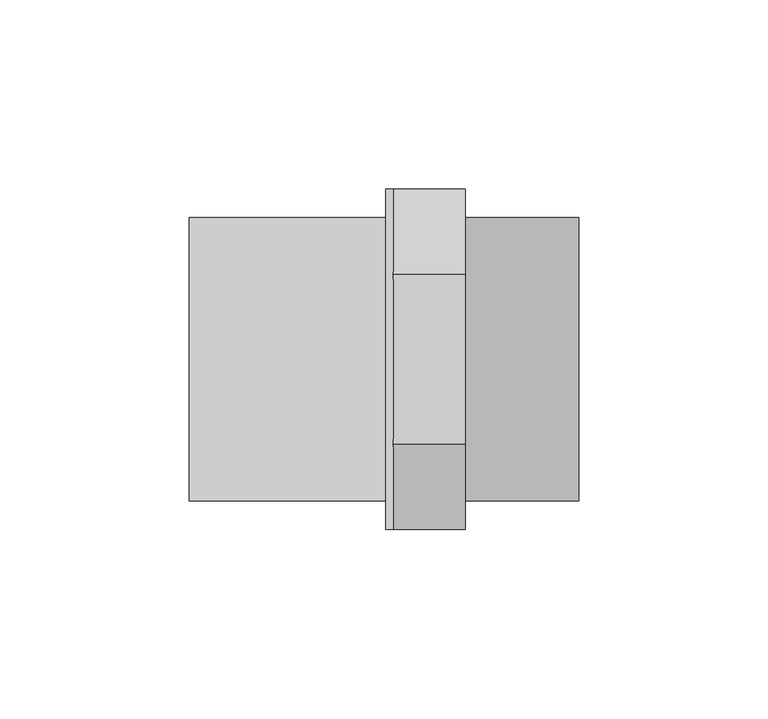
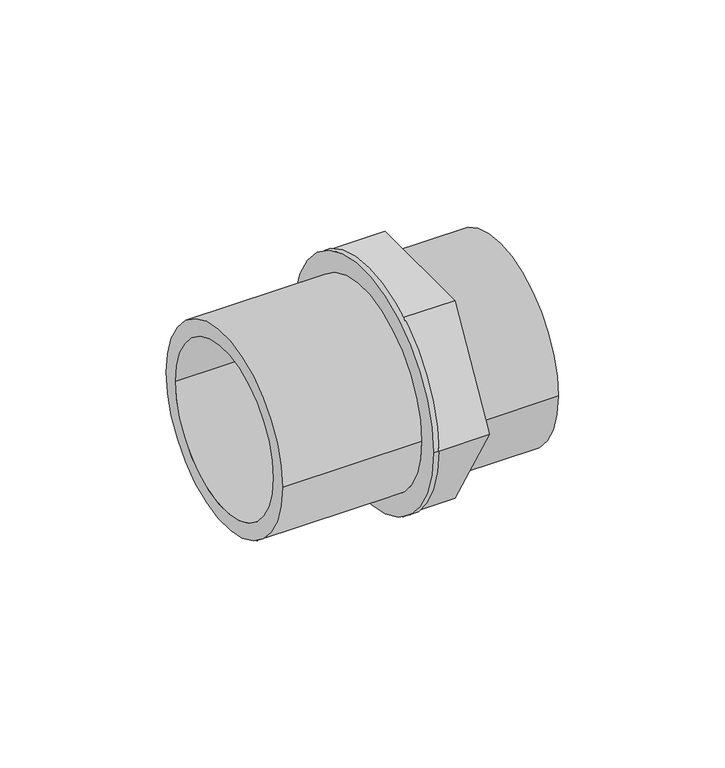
"""IFC4 building model written with IfcOpenShell, lengths in millimetres: pipe fitting geometry, 01011312 : Traversée de paroi en PVC."""

from ifc_helpers import new_model, si_unit, frame, origin, place, context, project, spatial, polyline, circle_curve, source, transform, mapped, element, save
from ifc_brep_helpers import plane_surface, cylinder_surface, revolved_surface, advanced_brep


def pipe_fitting_9d7bab96(model_context):
    return source(origin(), model_context, "Body", "AdvancedBrep", [
        advanced_brep(
        [(21.5, -22.5166605, 39.0), (21.5, -45.033321, 0.0), (21.5, -22.5166605, -39.0), (21.5, 22.5166605, -39.0), (21.5, 45.033321, 0.0), (21.5, 22.5166605, 39.0), (21.5, -37.5, 0.0), (21.5, 37.5, 0.0), (21.5, 31.5, 0.0), (21.5, -31.5, 0.0), (2.5, -22.5166605, 39.0), (2.5, -45.033321, 0.0), (2.5, -22.5166605, -39.0), (2.5, 22.5166605, -39.0), (2.5, 45.033321, 0.0), (2.5, 22.5166605, 39.0), (51.5, -37.5, 0.0), (51.5, 37.5, 0.0), (51.5, -31.5, 0.0), (51.5, 31.5, 0.0), (-51.5, 37.5, 0.0), (-51.5, -37.5, 0.0), (-51.5, 31.5, 0.0), (-51.5, -31.5, 0.0), (0.5, -37.5, 0.0), (0.5, 37.5, 0.0), (0.5, -45.033321, 0.0), (0.5, 45.033321, 0.0), (0.5, -31.5, 0.0), (0.5, 31.5, 0.0)],
        [
            (0, 1),
            (1, 2),
            (2, 3),
            (3, 4),
            (4, 5),
            (5, 0),
            (6, 7, circle_curve(frame((21.5, 0.0, 0.0), z_axis=(-1.0, 0.0, 0.0), x_axis=(0.0, 1.0, 0.0)), 37.5)),
            (7, 6, circle_curve(frame((21.5, 0.0, 0.0), z_axis=(-1.0, 0.0, 0.0), x_axis=(0.0, 1.0, 0.0)), 37.5)),
            (8, 9, circle_curve(frame((21.5, 0.0, 0.0), z_axis=(1.0, 0.0, 0.0), x_axis=(0.0, 1.0, 0.0)), 31.5)),
            (9, 8, circle_curve(frame((21.5, 0.0, 0.0), z_axis=(1.0, 0.0, 0.0), x_axis=(0.0, 1.0, 0.0)), 31.5)),
            (0, 10),
            (10, 11),
            (11, 1),
            (11, 12),
            (12, 2),
            (12, 13),
            (13, 3),
            (13, 14),
            (14, 4),
            (14, 15),
            (15, 5),
            (15, 10),
            (16, 17, circle_curve(frame((51.5, 0.0, 0.0), z_axis=(1.0, 0.0, 0.0), x_axis=(0.0, 1.0, 0.0)), 37.5)),
            (17, 16, circle_curve(frame((51.5, 0.0, 0.0), z_axis=(1.0, 0.0, 0.0), x_axis=(0.0, 1.0, 0.0)), 37.5)),
            (18, 19, circle_curve(frame((51.5, 0.0, 0.0), z_axis=(-1.0, 0.0, 0.0), x_axis=(0.0, 1.0, 0.0)), 31.5)),
            (19, 18, circle_curve(frame((51.5, 0.0, 0.0), z_axis=(-1.0, 0.0, 0.0), x_axis=(0.0, 1.0, 0.0)), 31.5)),
            (17, 7),
            (6, 16),
            (20, 21, circle_curve(frame((-51.5, 0.0, 0.0), z_axis=(-1.0, 0.0, 0.0), x_axis=(0.0, -1.0, 0.0)), 37.5)),
            (21, 20, circle_curve(frame((-51.5, 0.0, 0.0), z_axis=(-1.0, 0.0, 0.0), x_axis=(0.0, -1.0, 0.0)), 37.5)),
            (22, 23, circle_curve(frame((-51.5, 0.0, 0.0), z_axis=(1.0, 0.0, 0.0), x_axis=(0.0, -1.0, 0.0)), 31.5)),
            (23, 22, circle_curve(frame((-51.5, 0.0, 0.0), z_axis=(1.0, 0.0, 0.0), x_axis=(0.0, -1.0, 0.0)), 31.5)),
            (21, 24),
            (24, 25, circle_curve(frame((0.5, 0.0, 0.0), z_axis=(-1.0, 0.0, 0.0), x_axis=(0.0, -1.0, 0.0)), 37.5)),
            (25, 20),
            (25, 24, circle_curve(frame((0.5, 0.0, 0.0), z_axis=(-1.0, 0.0, 0.0), x_axis=(0.0, -1.0, 0.0)), 37.5)),
            (10, 11, circle_curve(frame((2.5, 0.0, 0.0), z_axis=(1.0, 0.0, 0.0), x_axis=(0.0, 1.0, 0.0)), 45.033321)),
            (14, 15, circle_curve(frame((2.5, 0.0, 0.0), z_axis=(1.0, 0.0, 0.0), x_axis=(0.0, 1.0, 0.0)), 45.033321)),
            (15, 10, circle_curve(frame((2.5, 0.0, 0.0), z_axis=(1.0, 0.0, 0.0), x_axis=(0.0, 1.0, 0.0)), 45.033321)),
            (13, 14, circle_curve(frame((2.5, 0.0, 0.0), z_axis=(1.0, 0.0, 0.0), x_axis=(0.0, 1.0, 0.0)), 45.033321)),
            (11, 12, circle_curve(frame((2.5, 0.0, 0.0), z_axis=(1.0, 0.0, 0.0), x_axis=(0.0, 1.0, 0.0)), 45.033321)),
            (12, 13, circle_curve(frame((2.5, 0.0, 0.0), z_axis=(1.0, 0.0, 0.0), x_axis=(0.0, 1.0, 0.0)), 45.033321)),
            (26, 27, circle_curve(frame((0.5, 0.0, 0.0), z_axis=(-1.0, 0.0, 0.0), x_axis=(0.0, 1.0, 0.0)), 45.033321)),
            (27, 26, circle_curve(frame((0.5, 0.0, 0.0), z_axis=(-1.0, 0.0, 0.0), x_axis=(0.0, 1.0, 0.0)), 45.033321)),
            (28, 29, circle_curve(frame((0.5, 0.0, 0.0), z_axis=(-1.0, 0.0, 0.0), x_axis=(0.0, -1.0, 0.0)), 31.5)),
            (29, 28, circle_curve(frame((0.5, 0.0, 0.0), z_axis=(-1.0, 0.0, 0.0), x_axis=(0.0, -1.0, 0.0)), 31.5)),
            (27, 14),
            (11, 26),
            (18, 9),
            (8, 19),
            (22, 29),
            (28, 23),
        ],
        [
            plane_surface(frame((21.5, -22.5166605, 39.0), z_axis=(1.0, 0.0, 0.0), x_axis=(0.0, -0.5000000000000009, -0.8660254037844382))),
            plane_surface(frame((21.5, -22.5166605, 39.0), z_axis=(0.0, -0.8660254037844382, 0.5000000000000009), x_axis=(-1.0, 0.0, 0.0))),
            plane_surface(frame((21.5, -45.033321, 0.0), z_axis=(0.0, -0.8660254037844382, -0.500000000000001), x_axis=(-1.0, 0.0, 0.0))),
            plane_surface(frame((21.5, -22.5166605, -39.0), z_axis=(0.0, 0.0, -1.0), x_axis=(-1.0, 0.0, 0.0))),
            plane_surface(frame((21.5, 22.5166605, -39.0), z_axis=(0.0, 0.8660254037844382, -0.500000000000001), x_axis=(-1.0, 0.0, 0.0))),
            plane_surface(frame((21.5, 45.033321, 0.0), z_axis=(0.0, 0.8660254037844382, 0.5000000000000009), x_axis=(-1.0, 0.0, 0.0))),
            plane_surface(frame((21.5, 22.5166605, 39.0), z_axis=(0.0, 0.0, 1.0), x_axis=(-1.0, 0.0, 0.0))),
            plane_surface(frame((51.5, 0.0, 0.0), z_axis=(1.0, 0.0, 0.0), x_axis=(0.0, 0.0, 1.0))),
            cylinder_surface(frame((21.5, 0.0, 0.0), z_axis=(-1.0, 0.0, 0.0), x_axis=(0.0, 1.0, 0.0)), 37.5),
            plane_surface(frame((-51.5, 0.0, 0.0), z_axis=(-1.0, 0.0, 0.0), x_axis=(0.0, 0.0, 1.0))),
            cylinder_surface(frame((0.5, 0.0, 0.0), z_axis=(1.0, 0.0, 0.0), x_axis=(0.0, -1.0, 0.0)), 37.5),
            plane_surface(frame((2.5, 45.033321, 0.0), z_axis=(1.0, 0.0, 0.0), x_axis=(0.0, 0.0, 1.0))),
            plane_surface(frame((0.5, 45.033321, 0.0), z_axis=(-1.0, 0.0, 0.0), x_axis=(0.0, 0.0, -1.0))),
            cylinder_surface(frame((0.5, 0.0, 0.0), z_axis=(1.0, 0.0, 0.0), x_axis=(0.0, 1.0, 0.0)), 45.033321),
            revolved_surface(polyline([(51.5, 31.5, 0.0), (21.5, 31.5, 0.0)]), (21.5, 0.0, 0.0), (1.0, 0.0, 0.0)),
            revolved_surface(polyline([(-51.5, -31.5, 0.0), (0.5, -31.5, 0.0)]), (0.5, 0.0, 0.0), (-1.0, 0.0, 0.0)),
        ],
        [
            (0, [[1, 2, 3, 4, 5, 6], [7, 8]]),
            (0, [[9, 10]]),
            (1, [[-1, 11, 12, 13]]),
            (2, [[-2, -13, 14, 15]]),
            (3, [[-3, -15, 16, 17]]),
            (4, [[-4, -17, 18, 19]]),
            (5, [[-5, -19, 20, 21]]),
            (6, [[-6, -21, 22, -11]]),
            (7, [[23, 24], [25, 26]]),
            (8, [[-24, 27, -7, 28]]),
            (8, [[-23, -28, -8, -27]]),
            (9, [[29, 30], [31, 32]]),
            (10, [[-30, 33, 34, 35]]),
            (10, [[-29, -35, 36, -33]]),
            (11, [[37, -12]]),
            (11, [[38, -20]]),
            (11, [[39, -22]]),
            (11, [[40, -18]]),
            (11, [[41, -14]]),
            (11, [[42, -16]]),
            (12, [[43, 44], [-34, -36]]),
            (12, [[45, 46]]),
            (13, [[-44, 47, -40, -42, -41, 48]]),
            (13, [[-43, -48, -37, -39, -38, -47]]),
            (14, [[-25, 49, -9, 50]]),
            (14, [[-26, -50, -10, -49]]),
            (15, [[-31, 51, -45, 52]]),
            (15, [[-32, -52, -46, -51]]),
        ],
    ),
    ])


if __name__ == "__main__":
    model = new_model("IFC4")
    model_context = context("Model", 3, world=origin())
    ifc_project = project(units=[si_unit("LENGTHUNIT", "METRE", prefix="MILLI")], contexts=[model_context])
    site = spatial("IfcSite", under=ifc_project)
    building = spatial("IfcBuilding", under=site)
    placement = place(None, origin())
    pipe_fitting_shape = pipe_fitting_9d7bab96(model_context)
    element("IfcPipeFitting", 1, ObjectType="01011312 : Traversée de paroi en PVC", at=placement, inside=building, context=model_context, shape_type="MappedRepresentation", body=[
        mapped(pipe_fitting_shape, transform((0.0, 0.0, 0.0), x_axis=(1.0, 0.0, 0.0), y_axis=(0.0, 1.0, 0.0), z_axis=(0.0, 0.0, 1.0))),
    ])
    save(model, "model.ifc")
